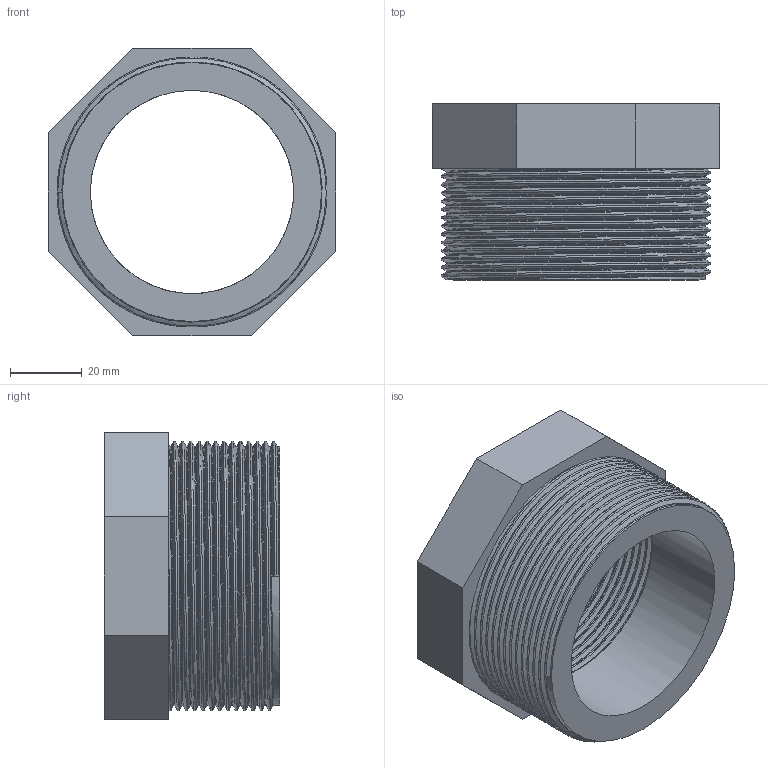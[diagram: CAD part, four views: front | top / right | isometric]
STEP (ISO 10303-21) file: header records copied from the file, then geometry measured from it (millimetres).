
FILE_DESCRIPTION(/* description */ ('PVC riduzione filettata BSP maschio-femmina'),/* implementation_level */ '2;1');
FILE_NAME(/* name */ 'C:\Users\POLYPIPE\Desktop\DATASET INVENTOR\LIBRERIA EFFAST\RACCORDI 3DxWEB\RER\3D_RERRCE\3D_RERRCE075G.stp',/* time_stamp */ '2018-01-19T16:58:41+01:00',/* author */ ('POLYPIPE'),/* organization */ ('Polypipe Italia s.r.l.'),/* preprocessor_version */ 'ST-DEVELOPER v16.1',/* originating_system */ 'Autodesk Inventor 2016',/* authorisation */ '');
FILE_SCHEMA (('CONFIG_CONTROL_DESIGN'));
Length unit declared in the file: millimetre
Products named in the file (1): 3D_RERRCE
Bounding box: 80 x 49 x 80 mm (x, y, z)
Volume: 100736.9 mm3; surface area: 34147.7 mm2
Topology: 1 solids, 1 shells, 25 faces, 62 edges, 40 vertices
Faces by surface type: plane 13, bspline 10, cylinder 2
Full cylindrical faces by diameter (mm): 56.656 x1, 72.226 x1
Entity records: 9966 total; most frequent: CARTESIAN_POINT 9419, ORIENTED_EDGE 120, DIRECTION 78, EDGE_CURVE 60, VERTEX_POINT 39, LINE 30, VECTOR 30, EDGE_LOOP 29
